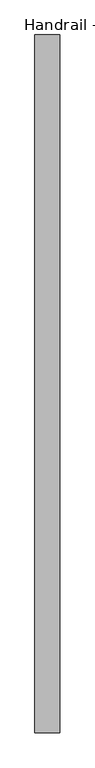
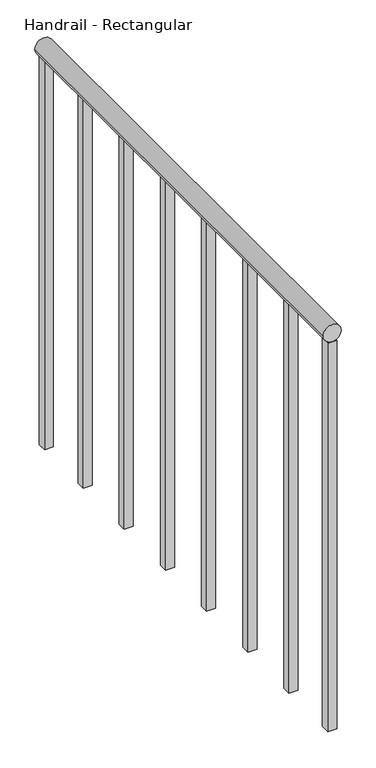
"""IFC4 building model written with IfcOpenShell, lengths in millimetres: railing geometry, Handrail - Rectangular."""

import ifcopenshell
import ifcopenshell.guid

model = None  # the IFC model being written
_history = None  # IfcOwnerHistory: only IFC2X3 demands one
_inside = {}  # id of a spatial element -> (the spatial element, [elements in it])
_under = {}  # id of a project, library or spatial element -> (it, [spatial elements below it])
_declared = {}  # id of a project -> (the project, [libraries it declares])
_typed = {}  # id of a type object -> (the type object, [elements of that type])
_made_of = {}  # id of a material, layer set ... -> (it, [elements and type objects made of it])


def new_model(schema):
    """Start an empty IFC model of exactly this schema.

    Asked for "IFC4X3", IfcOpenShell would pick the latest addendum, in which some entities
    have other attributes; the version numbers below select the first issue.
    IFC2X3 requires an IfcOwnerHistory on every rooted entity: one is made here for all.
    """
    global model, _history
    if schema == "IFC4X3":
        model = ifcopenshell.file(schema_version=(4, 3, 0, 0))
    else:
        model = ifcopenshell.file(schema=schema)
    _inside.clear()
    _under.clear()
    _declared.clear()
    _typed.clear()
    _made_of.clear()
    _history = None
    if model.schema == "IFC2X3":
        org = make("IfcOrganization", Name="unknown")
        user = make(
            "IfcPersonAndOrganization",
            ThePerson=make("IfcPerson", FamilyName="unknown"),
            TheOrganization=org,
        )
        app = make(
            "IfcApplication",
            ApplicationDeveloper=org,
            Version="unknown",
            ApplicationFullName="unknown",
            ApplicationIdentifier="unknown",
        )
        _history = make(
            "IfcOwnerHistory",
            OwningUser=user,
            OwningApplication=app,
            ChangeAction="ADDED",
            CreationDate=0,
        )
    return model


def make(cls, **values):
    """One entity of the class cls with the attributes given. An attribute that is None is left unset."""
    return model.create_entity(
        cls, **{name: value for name, value in values.items() if value is not None}
    )


def rooted(cls, **values):
    """An entity with a GlobalId (a new one), such as an element, a storey or a relation."""
    return make(cls, GlobalId=ifcopenshell.guid.new(), OwnerHistory=_history, **values)


def si_unit(unit_type, name, prefix=None):
    """IfcSIUnit, for example si_unit("LENGTHUNIT", "METRE", prefix="MILLI")."""
    return make("IfcSIUnit", UnitType=unit_type, Prefix=prefix, Name=name)


def assignment(units):
    """IfcUnitAssignment: the units of a project."""
    return None if units is None else make("IfcUnitAssignment", Units=units)


def point(xyz):
    """IfcCartesianPoint."""
    return None if xyz is None else make("IfcCartesianPoint", Coordinates=xyz)


def direction(xyz):
    """IfcDirection."""
    return None if xyz is None else make("IfcDirection", DirectionRatios=xyz)


def frame(location, z_axis=None, x_axis=None):
    """IfcAxis2Placement3D, a coordinate frame: its origin and axes. An axis left out is left unset."""
    return make(
        "IfcAxis2Placement3D",
        Location=point(location),
        Axis=direction(z_axis),
        RefDirection=direction(x_axis),
    )


def frame_2d(location, x_axis=None):
    """IfcAxis2Placement2D, a coordinate frame in the plane: its origin and x axis."""
    return make(
        "IfcAxis2Placement2D", Location=point(location), RefDirection=direction(x_axis)
    )


def origin():
    """The frame at (0, 0, 0) with its axes left unset."""
    return frame((0.0, 0.0, 0.0))


def place(relative_to, where):
    """IfcLocalPlacement: puts the frame where relative to a parent placement (None: the world)."""
    return make(
        "IfcLocalPlacement", PlacementRelTo=relative_to, RelativePlacement=where
    )


def context(
    kind, dimensions, precision=None, world=None, true_north=None, identifier=None
):
    """IfcGeometricRepresentationContext, for example the 3D "Model" context."""
    return make(
        "IfcGeometricRepresentationContext",
        ContextIdentifier=identifier,
        ContextType=kind,
        CoordinateSpaceDimension=dimensions,
        Precision=precision,
        WorldCoordinateSystem=world,
        TrueNorth=true_north,
    )


def project(units=None, contexts=None):
    """IfcProject with its units and contexts."""
    return rooted(
        "IfcProject",
        Name="project",
        RepresentationContexts=contexts,
        UnitsInContext=assignment(units),
    )


def spatial(cls, under=None, at=None, **own):
    """A site, building, storey or space (cls), placed at a placement, below another one or the project."""
    s = rooted(cls, ObjectPlacement=at, **own)
    if under is not None:
        _under.setdefault(under.id(), (under, []))[1].append(s)
    return s


def polyline(points):
    """IfcPolyline through the points."""
    return make("IfcPolyline", Points=[point(p) for p in points])


def circle_curve(where, radius):
    """IfcCircle in the frame where."""
    return make("IfcCircle", Position=where, Radius=radius)


def trimmed(basis, trim1, trim2, sense, master):
    """IfcTrimmedCurve: the piece of a basis curve between two trims."""
    return make(
        "IfcTrimmedCurve",
        BasisCurve=basis,
        Trim1=trim1,
        Trim2=trim2,
        SenseAgreement=sense,
        MasterRepresentation=master,
    )


def segment(curve, same_sense, transition):
    """IfcCompositeCurveSegment."""
    return make(
        "IfcCompositeCurveSegment",
        Transition=transition,
        SameSense=same_sense,
        ParentCurve=curve,
    )


def composite_curve(segments, self_intersect=None):
    """IfcCompositeCurve: segments joined end to end."""
    return make("IfcCompositeCurve", Segments=segments, SelfIntersect=self_intersect)


def outline(outer, holes=None, kind="AREA"):
    """IfcArbitraryClosedProfileDef: a profile drawn as a closed curve; with holes, ...WithVoids."""
    if holes is None:
        return make("IfcArbitraryClosedProfileDef", ProfileType=kind, OuterCurve=outer)
    return make(
        "IfcArbitraryProfileDefWithVoids",
        ProfileType=kind,
        OuterCurve=outer,
        InnerCurves=holes,
    )


def extrude(swept, where, along, depth):
    """IfcExtrudedAreaSolid: the profile swept, set in the frame where, extruded along a direction by depth."""
    return make(
        "IfcExtrudedAreaSolid",
        SweptArea=swept,
        Position=where,
        ExtrudedDirection=direction(along),
        Depth=depth,
    )


def shape(context_of_items, identifier, shape_type, items):
    """IfcShapeRepresentation: the items that make up one representation, for example the "Body"."""
    return make(
        "IfcShapeRepresentation",
        ContextOfItems=context_of_items,
        RepresentationIdentifier=identifier,
        RepresentationType=shape_type,
        Items=items,
    )


def source(mapping_origin, context_of_items, identifier, shape_type, items):
    """IfcRepresentationMap: a shape defined once, which mapped items show again and again."""
    return make(
        "IfcRepresentationMap",
        MappingOrigin=mapping_origin,
        MappedRepresentation=shape(context_of_items, identifier, shape_type, items),
    )


def transform(
    local_origin,
    x_axis=None,
    y_axis=None,
    z_axis=None,
    scale=None,
    scale2=None,
    scale3=None,
    uniform=True,
):
    """IfcCartesianTransformationOperator3D, or its non-uniform kind. x_axis, y_axis, z_axis: its Axis1, 2, 3."""
    if uniform:
        return make(
            "IfcCartesianTransformationOperator3D",
            Axis1=direction(x_axis),
            Axis2=direction(y_axis),
            LocalOrigin=point(local_origin),
            Scale=scale,
            Axis3=direction(z_axis),
        )
    return make(
        "IfcCartesianTransformationOperator3DnonUniform",
        Axis1=direction(x_axis),
        Axis2=direction(y_axis),
        LocalOrigin=point(local_origin),
        Scale=scale,
        Axis3=direction(z_axis),
        Scale2=scale2,
        Scale3=scale3,
    )


def mapped(mapping_source, mapping_target):
    """IfcMappedItem: shows the shape of a source again, moved by a transform."""
    return make(
        "IfcMappedItem", MappingSource=mapping_source, MappingTarget=mapping_target
    )


def made_of(thing, what):
    """Note that an element or type object is made of a material, layer set ...; save() writes the relation."""
    if what is not None:
        _made_of.setdefault(what.id(), (what, []))[1].append(thing)
    return thing


def element(
    cls,
    number,
    at=None,
    inside=None,
    cuts=None,
    type_object=None,
    material=None,
    context=None,
    identifier="Body",
    shape_type=None,
    held_by="IfcProductDefinitionShape",
    body=None,
    shapes=None,
    **own,
):
    """One element of the class cls, such as IfcWall. Its Tag is "e" and its number.

    at: its placement. inside: the storey or other place that contains it. cuts: it is an
    opening in that element (IfcRelVoidsElement). A single representation is given by context,
    identifier, shape_type and body (its items); several are given by shapes. held_by: the class
    of the entity that holds the representations. save() writes the other relations.
    """
    e = rooted(cls, Tag="e%d" % number, ObjectPlacement=at, **own)
    if body is not None:
        shapes = [shape(context, identifier, shape_type, body)]
    if shapes is not None:
        e.Representation = make(held_by, Representations=shapes)
    if inside is not None:
        _inside.setdefault(inside.id(), (inside, []))[1].append(e)
    if cuts is not None:
        rooted(
            "IfcRelVoidsElement", RelatingBuildingElement=cuts, RelatedOpeningElement=e
        )
    if type_object is not None:
        _typed.setdefault(type_object.id(), (type_object, []))[1].append(e)
    return made_of(e, material)


def aggregate(whole, parts):
    """IfcRelAggregates: a whole, such as a stair, and the parts it consists of."""
    return rooted("IfcRelAggregates", RelatingObject=whole, RelatedObjects=parts)


def save(model, path):
    """Write the relations noted so far, then the file.

    IfcRelAggregates (storeys below a building ...), IfcRelContainedInSpatialStructure (elements
    in a storey), IfcRelDefinesByType, IfcRelAssociatesMaterial and IfcRelDeclares: one each for
    every whole, place, type object, material and project.
    """
    for whole, parts in _under.values():
        aggregate(whole, parts)
    for where, things in _inside.values():
        rooted(
            "IfcRelContainedInSpatialStructure",
            RelatedElements=things,
            RelatingStructure=where,
        )
    for kind, things in _typed.values():
        rooted("IfcRelDefinesByType", RelatedObjects=things, RelatingType=kind)
    for what, things in _made_of.values():
        rooted("IfcRelAssociatesMaterial", RelatedObjects=things, RelatingMaterial=what)
    for by, libraries in _declared.values():
        rooted("IfcRelDeclares", RelatingContext=by, RelatedDefinitions=libraries)
    model.write(path)


def handrail_rectangular_64a38bec(model_context):
    return source(origin(), model_context, "Body", "SweptSolid", [
        extrude(outline(composite_curve([segment(trimmed(circle_curve(frame_2d((10039.35, -32167.4839563)), 19.05), [point((10039.35, -32186.5339563))], [point((10039.35, -32148.4339563))], False, "CARTESIAN"), True, "CONTINUOUS"), segment(trimmed(circle_curve(frame_2d((10039.35, -32167.4839563)), 19.05), [point((10039.35, -32148.4339563))], [point((10039.35, -32186.5339563))], False, "CARTESIAN"), True, "CONTINUOUS")], self_intersect=False)), frame((0.0, 10674.8316867, 0.0), z_axis=(0.0, 1.0, 0.0), x_axis=(0.0, 0.0, 1.0)), (0.0, 0.0, 1.0), 1066.8),
        extrude(outline(polyline([(-32157.9589563, 10836.7566867), (-32157.9589563, 10817.7066867), (-32177.0089563, 10817.7066867), (-32177.0089563, 10836.7566867), (-32157.9589563, 10836.7566867)])), frame((0.0, 0.0, 9144.0), z_axis=(0.0, 0.0, 1.0), x_axis=(1.0, 0.0, 0.0)), (0.0, 0.0, 1.0), 876.3),
        extrude(outline(polyline([(-32157.9589563, 10989.1566867), (-32157.9589563, 10970.1066867), (-32177.0089563, 10970.1066867), (-32177.0089563, 10989.1566867), (-32157.9589563, 10989.1566867)])), frame((0.0, 0.0, 9144.0), z_axis=(0.0, 0.0, 1.0), x_axis=(1.0, 0.0, 0.0)), (0.0, 0.0, 1.0), 876.3),
        extrude(outline(polyline([(-32157.9589563, 11141.5566867), (-32157.9589563, 11122.5066867), (-32177.0089563, 11122.5066867), (-32177.0089563, 11141.5566867), (-32157.9589563, 11141.5566867)])), frame((0.0, 0.0, 9144.0), z_axis=(0.0, 0.0, 1.0), x_axis=(1.0, 0.0, 0.0)), (0.0, 0.0, 1.0), 876.3),
        extrude(outline(polyline([(-32157.9589563, 11293.9566867), (-32157.9589563, 11274.9066867), (-32177.0089563, 11274.9066867), (-32177.0089563, 11293.9566867), (-32157.9589563, 11293.9566867)])), frame((0.0, 0.0, 9144.0), z_axis=(0.0, 0.0, 1.0), x_axis=(1.0, 0.0, 0.0)), (0.0, 0.0, 1.0), 876.3),
        extrude(outline(polyline([(-32157.9589563, 11446.3566867), (-32157.9589563, 11427.3066867), (-32177.0089563, 11427.3066867), (-32177.0089563, 11446.3566867), (-32157.9589563, 11446.3566867)])), frame((0.0, 0.0, 9144.0), z_axis=(0.0, 0.0, 1.0), x_axis=(1.0, 0.0, 0.0)), (0.0, 0.0, 1.0), 876.3),
        extrude(outline(polyline([(-32157.9589563, 11598.7566867), (-32157.9589563, 11579.7066867), (-32177.0089563, 11579.7066867), (-32177.0089563, 11598.7566867), (-32157.9589563, 11598.7566867)])), frame((0.0, 0.0, 9144.0), z_axis=(0.0, 0.0, 1.0), x_axis=(1.0, 0.0, 0.0)), (0.0, 0.0, 1.0), 876.3),
        extrude(outline(polyline([(-32157.9589563, 10693.8816867), (-32157.9589563, 10674.8316867), (-32177.0089563, 10674.8316867), (-32177.0089563, 10693.8816867), (-32157.9589563, 10693.8816867)])), frame((0.0, 0.0, 9144.0), z_axis=(0.0, 0.0, 1.0), x_axis=(1.0, 0.0, 0.0)), (0.0, 0.0, 1.0), 876.3),
        extrude(outline(polyline([(-32157.9589563, 11741.6316867), (-32157.9589563, 11722.5816867), (-32177.0089563, 11722.5816867), (-32177.0089563, 11741.6316867), (-32157.9589563, 11741.6316867)])), frame((0.0, 0.0, 9144.0), z_axis=(0.0, 0.0, 1.0), x_axis=(1.0, 0.0, 0.0)), (0.0, 0.0, 1.0), 876.3),
    ])


if __name__ == "__main__":
    model = new_model("IFC4")
    model_context = context("Model", 3, world=origin())
    ifc_project = project(units=[si_unit("LENGTHUNIT", "METRE", prefix="MILLI")], contexts=[model_context])
    site = spatial("IfcSite", under=ifc_project)
    building = spatial("IfcBuilding", under=site)
    placement = place(None, origin())
    handrail_rectangular_shape = handrail_rectangular_64a38bec(model_context)
    element("IfcRailing", 1, ObjectType="Handrail - Rectangular", at=placement, inside=building, context=model_context, shape_type="MappedRepresentation", body=[
        mapped(handrail_rectangular_shape, transform((0.0, 0.0, 0.0), x_axis=(1.0, 0.0, 0.0), y_axis=(0.0, 1.0, 0.0), z_axis=(0.0, 0.0, 1.0))),
    ])
    save(model, "model.ifc")
